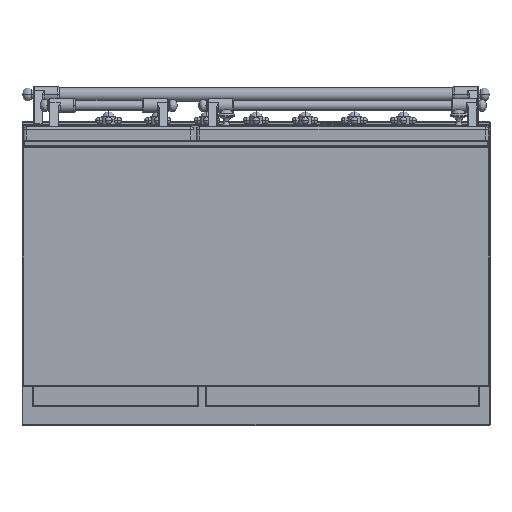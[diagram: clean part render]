
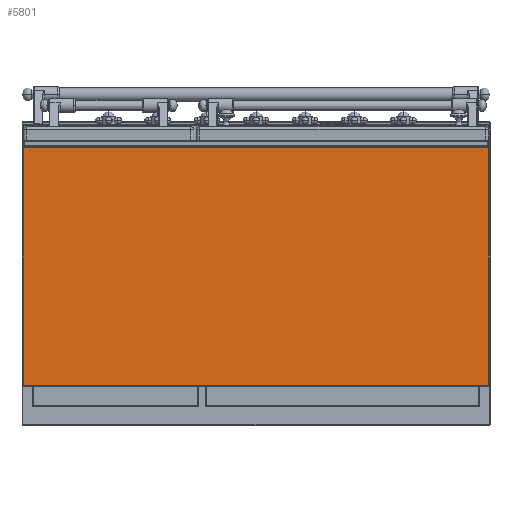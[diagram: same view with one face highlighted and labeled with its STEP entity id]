
A CAD part, front view. The second image highlights one B-rep face of the part: STEP entity #5801.
In plain terms, the highlighted planar face has unit normal (0, -1, 0).
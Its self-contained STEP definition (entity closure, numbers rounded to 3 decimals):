
#5482=DIRECTION('',(0.,0.,1.));
#5483=VECTOR('',#5482,508.);
#5484=CARTESIAN_POINT('',(497.,0.,-254.));
#5485=LINE('',#5484,#5483);
#5486=DIRECTION('',(-1.,0.,0.));
#5487=VECTOR('',#5486,994.);
#5488=CARTESIAN_POINT('',(497.,0.,-254.));
#5489=LINE('',#5488,#5487);
#5490=DIRECTION('',(0.,0.,-1.));
#5491=VECTOR('',#5490,508.);
#5492=CARTESIAN_POINT('',(-497.,0.,254.));
#5493=LINE('',#5492,#5491);
#5494=DIRECTION('',(-1.,0.,0.));
#5495=VECTOR('',#5494,994.);
#5496=CARTESIAN_POINT('',(497.,0.,254.));
#5497=LINE('',#5496,#5495);
#5681=CARTESIAN_POINT('',(497.,0.,-254.));
#5682=CARTESIAN_POINT('',(497.,0.,254.));
#5683=VERTEX_POINT('',#5681);
#5684=VERTEX_POINT('',#5682);
#5687=CARTESIAN_POINT('',(-497.,0.,-254.));
#5688=VERTEX_POINT('',#5687);
#5695=CARTESIAN_POINT('',(-497.,0.,254.));
#5696=VERTEX_POINT('',#5695);
#5788=CARTESIAN_POINT('',(-499.,0.,-256.));
#5789=DIRECTION('',(0.,1.,0.));
#5790=DIRECTION('',(0.,0.,1.));
#5791=AXIS2_PLACEMENT_3D('',#5788,#5789,#5790);
#5792=PLANE('',#5791);
#5794=ORIENTED_EDGE('',*,*,#5793,.F.);
#5795=ORIENTED_EDGE('',*,*,#5778,.T.);
#5796=ORIENTED_EDGE('',*,*,#5724,.F.);
#5798=ORIENTED_EDGE('',*,*,#5797,.F.);
#5799=EDGE_LOOP('',(#5794,#5795,#5796,#5798));
#5800=FACE_OUTER_BOUND('',#5799,.F.);
#5724=EDGE_CURVE('',#5696,#5688,#5493,.T.);
#5778=EDGE_CURVE('',#5683,#5688,#5489,.T.);
#5793=EDGE_CURVE('',#5683,#5684,#5485,.T.);
#5797=EDGE_CURVE('',#5684,#5696,#5497,.T.);
#5801=ADVANCED_FACE('',(#5800),#5792,.F.);
